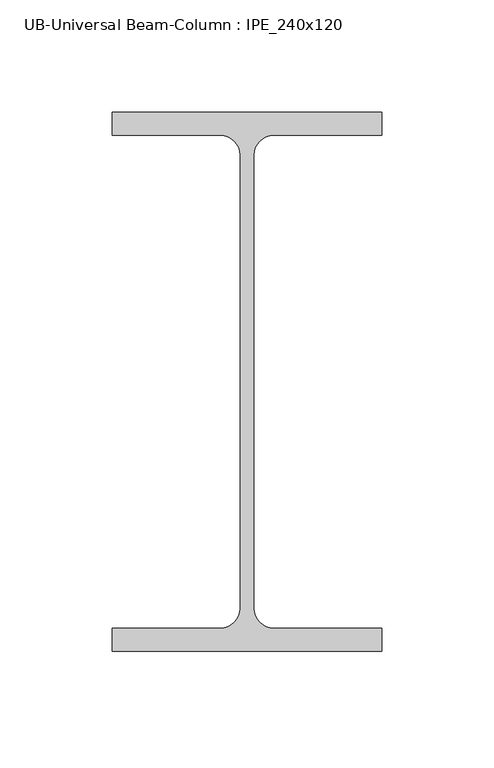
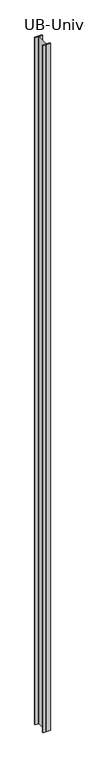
"""IFC4 building model written with IfcOpenShell, lengths in millimetres: column geometry, UB-Universal Beam-Column : IPE_240x120."""

from ifc_helpers import new_model, si_unit, point, frame, frame_2d, origin, place, context, project, spatial, polyline, circle_curve, trimmed, segment, composite_curve, outline, extrude, source, transform, mapped, element, save


def ub_universal_beam_column_ipe_240x120_f32cc83f(model_context):
    return source(origin(), model_context, "Body", "SweptSolid", [
        extrude(outline(composite_curve([segment(polyline([(60.0, -120.0), (-60.0, -120.0), (-60.0, -109.8), (-11.9, -109.8)]), True, "CONTINUOUS"), segment(trimmed(circle_curve(frame_2d((-11.9, -100.9)), 8.9), [point((-11.9, -109.8))], [point((-3.0, -100.9))], True, "CARTESIAN"), True, "CONTINUOUS"), segment(polyline([(-3.0, -100.9), (-3.0, 100.9)]), True, "CONTINUOUS"), segment(trimmed(circle_curve(frame_2d((-11.9, 100.9)), 8.9), [point((-3.0, 100.9))], [point((-11.9, 109.8))], True, "CARTESIAN"), True, "CONTINUOUS"), segment(polyline([(-11.9, 109.8), (-60.0, 109.8), (-60.0, 120.0), (60.0, 120.0), (60.0, 109.8), (11.9, 109.8)]), True, "CONTINUOUS"), segment(trimmed(circle_curve(frame_2d((11.9, 100.9)), 8.9), [point((11.9, 109.8))], [point((3.0, 100.9))], True, "CARTESIAN"), True, "CONTINUOUS"), segment(polyline([(3.0, 100.9), (3.0, -100.9)]), True, "CONTINUOUS"), segment(trimmed(circle_curve(frame_2d((11.9, -100.9)), 8.9), [point((3.0, -100.9))], [point((11.9, -109.8))], True, "CARTESIAN"), True, "CONTINUOUS"), segment(polyline([(11.9, -109.8), (60.0, -109.8), (60.0, -120.0)]), True, "CONTINUOUS")], self_intersect=False)), frame((0.0, 0.0, 25860.0), z_axis=(0.0, 0.0, 1.0), x_axis=(1.0, 0.0, 0.0)), (0.0, 0.0, 1.0), 12000.0),
    ])


if __name__ == "__main__":
    model = new_model("IFC4")
    model_context = context("Model", 3, world=origin())
    ifc_project = project(units=[si_unit("LENGTHUNIT", "METRE", prefix="MILLI")], contexts=[model_context])
    site = spatial("IfcSite", under=ifc_project)
    building = spatial("IfcBuilding", under=site)
    placement = place(None, origin())
    ub_universal_beam_column_ipe_240x120_shape = ub_universal_beam_column_ipe_240x120_f32cc83f(model_context)
    element("IfcColumn", 1, ObjectType="UB-Universal Beam-Column : IPE_240x120", at=placement, inside=building, context=model_context, shape_type="MappedRepresentation", body=[
        mapped(ub_universal_beam_column_ipe_240x120_shape, transform((0.0, 0.0, 0.0), x_axis=(1.0, 0.0, 0.0), y_axis=(0.0, 1.0, 0.0), z_axis=(0.0, 0.0, 1.0))),
    ])
    save(model, "model.ifc")
